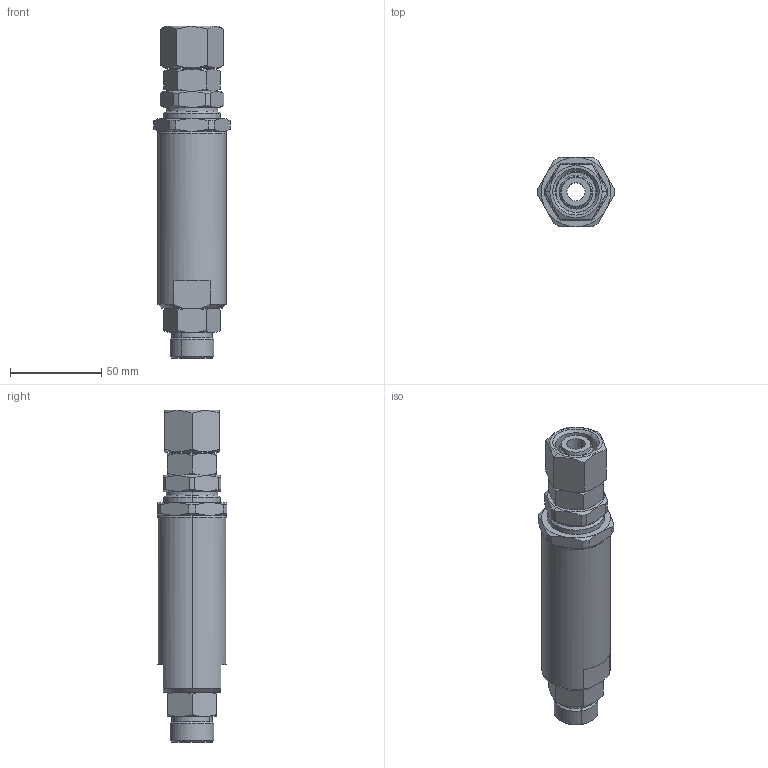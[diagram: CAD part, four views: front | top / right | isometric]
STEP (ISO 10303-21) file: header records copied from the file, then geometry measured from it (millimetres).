
FILE_DESCRIPTION (( 'STEP AP214' ), '1' );
FILE_NAME ('VSQ24001.STEP', '2025-05-16T01:29:57', ( '' ), ( '' ), 'SwSTEP 2.0', 'SolidWorks 2023', '' );
FILE_SCHEMA (( 'AUTOMOTIVE_DESIGN' ));
Length unit declared in the file: millimetre
Products named in the file (1): VSQ24001
Bounding box: 41.98 x 38.1 x 182.2 mm (x, y, z)
Surface area: 29513.9 mm2 (no closed solid volume)
Topology: 0 solids, 8 shells, 139 faces, 361 edges, 233 vertices
Faces by surface type: cone 57, plane 45, cylinder 31, torus 6
Entity records: 4778 total; most frequent: CARTESIAN_POINT 1458, DIRECTION 694, ORIENTED_EDGE 661, EDGE_CURVE 361, AXIS2_PLACEMENT_3D 285, VERTEX_POINT 233, EDGE_LOOP 150, CIRCLE 145
